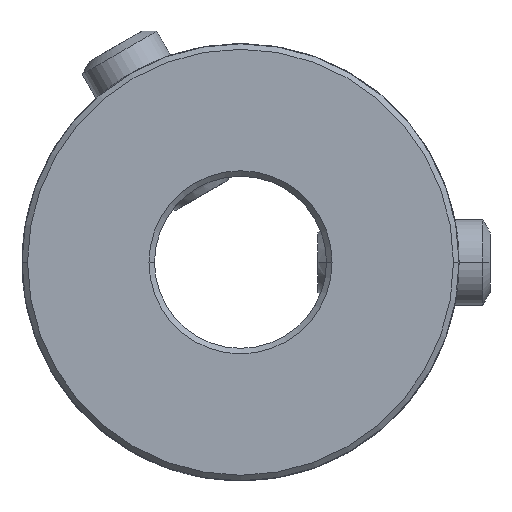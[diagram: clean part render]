
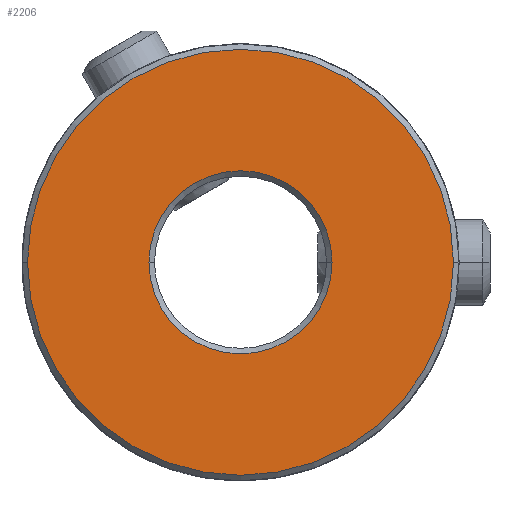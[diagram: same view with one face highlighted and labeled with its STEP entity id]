
A CAD part, front view. The second image highlights one B-rep face of the part: STEP entity #2206.
In plain terms, the highlighted planar face has unit normal (0, -1, 0).
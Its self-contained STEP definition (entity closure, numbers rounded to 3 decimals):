
#2=CARTESIAN_POINT('',(0.,-19.05,0.));
#3=DIRECTION('',(0.,-1.,0.));
#4=DIRECTION('',(1.,0.,0.));
#5=AXIS2_PLACEMENT_3D('',#2,#3,#4);
#7=CARTESIAN_POINT('',(0.,-19.05,0.));
#8=DIRECTION('',(0.,-1.,0.));
#9=DIRECTION('',(-1.,0.,0.));
#10=AXIS2_PLACEMENT_3D('',#7,#8,#9);
#12=CARTESIAN_POINT('',(0.,-19.05,
0.));
#13=DIRECTION('',(0.,1.,0.));
#14=DIRECTION('',(1.,0.,0.));
#15=AXIS2_PLACEMENT_3D('',#12,#13,#14);
#17=CARTESIAN_POINT('',(0.,-19.05,0.));
#18=DIRECTION('',(0.,1.,0.));
#19=DIRECTION('',(-1.,0.,0.));
#20=AXIS2_PLACEMENT_3D('',#17,#18,#19);
#2033=CARTESIAN_POINT('',(5.32,-19.05,0.));
#2034=CARTESIAN_POINT('',(-5.32,-19.05,0.));
#2035=VERTEX_POINT('',#2033);
#2036=VERTEX_POINT('',#2034);
#2049=CARTESIAN_POINT('',(12.38,-19.05,0.));
#2050=CARTESIAN_POINT('',(-12.38,-19.05,0.));
#2051=VERTEX_POINT('',#2049);
#2052=VERTEX_POINT('',#2050);
#2189=CARTESIAN_POINT('',(0.,-19.05,0.));
#2190=DIRECTION('',(0.,1.,0.));
#2191=DIRECTION('',(1.,0.,0.));
#2192=AXIS2_PLACEMENT_3D('',#2189,#2190,#2191);
#2193=PLANE('',#2192);
#2195=ORIENTED_EDGE('',*,*,#2194,.F.);
#2197=ORIENTED_EDGE('',*,*,#2196,.F.);
#2198=EDGE_LOOP('',(#2195,#2197));
#2199=FACE_OUTER_BOUND('',#2198,.F.);
#2201=ORIENTED_EDGE('',*,*,#2200,.F.);
#2203=ORIENTED_EDGE('',*,*,#2202,.F.);
#2204=EDGE_LOOP('',(#2201,#2203));
#2205=FACE_BOUND('',#2204,.F.);
#2206=ADVANCED_FACE('',(#2199,#2205),#2193,.F.);
#6=CIRCLE('',#5,12.38);
#11=CIRCLE('',#10,12.38);
#16=CIRCLE('',#15,5.32);
#21=CIRCLE('',#20,5.32);
#2194=EDGE_CURVE('',#2051,#2052,#6,.T.);
#2196=EDGE_CURVE('',#2052,#2051,#11,.T.);
#2200=EDGE_CURVE('',#2035,#2036,#16,.T.);
#2202=EDGE_CURVE('',#2036,#2035,#21,.T.);
